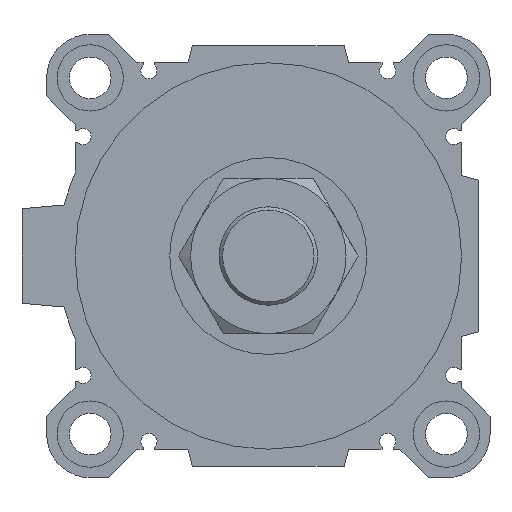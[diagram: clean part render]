
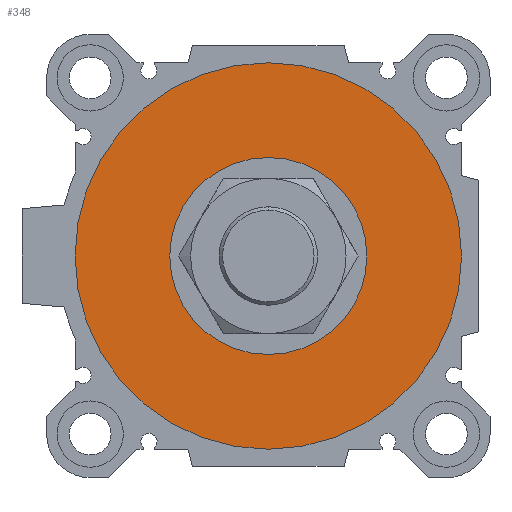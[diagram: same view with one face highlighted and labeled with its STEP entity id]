
A CAD part, left-side view. The second image highlights one B-rep face of the part: STEP entity #348.
In plain terms, the highlighted planar face has unit normal (-1, 0, 0).
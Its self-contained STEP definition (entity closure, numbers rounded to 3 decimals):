
#40 = DIRECTION ( 'NONE',  ( 0., 0., -1. ) ) ;
#83 = DIRECTION ( 'NONE',  ( 0., 1., 0. ) ) ;
#180 = DIRECTION ( 'NONE',  ( 1., 0., 0. ) ) ;
#293 = CARTESIAN_POINT ( 'NONE',  ( 6.5, 0., 0. ) ) ;
#348 = ADVANCED_FACE ( 'NONE', ( #6093, #4822 ), #677, .F. ) ;
#478 = ORIENTED_EDGE ( 'NONE', *, *, #4496, .T. ) ;
#677 = PLANE ( 'NONE',  #4860 ) ;
#722 = EDGE_CURVE ( 'NONE', #7120, #2882, #5487, .T. ) ;
#960 = CARTESIAN_POINT ( 'NONE',  ( 6.5, 0., 51. ) ) ;
#980 = CIRCLE ( 'NONE', #1232, 26. ) ;
#1167 = ORIENTED_EDGE ( 'NONE', *, *, #2919, .T. ) ;
#1232 = AXIS2_PLACEMENT_3D ( 'NONE', #293, #180, #4555 ) ;
#1303 = VERTEX_POINT ( 'NONE', #3326 ) ;
#1313 = EDGE_CURVE ( 'NONE', #2882, #7120, #2979, .T. ) ;
#1726 = CIRCLE ( 'NONE', #6184, 26. ) ;
#1842 = ORIENTED_EDGE ( 'NONE', *, *, #1313, .F. ) ;
#2514 = CARTESIAN_POINT ( 'NONE',  ( 6.5, 0., 0. ) ) ;
#2566 = DIRECTION ( 'NONE',  ( 0., 0., -1. ) ) ;
#2882 = VERTEX_POINT ( 'NONE', #3662 ) ;
#2919 = EDGE_CURVE ( 'NONE', #6964, #1303, #1726, .T. ) ;
#2979 = CIRCLE ( 'NONE', #7439, 51. ) ;
#3100 = DIRECTION ( 'NONE',  ( 1., 0., 0. ) ) ;
#3151 = CARTESIAN_POINT ( 'NONE',  ( 6.5, 0., 0. ) ) ;
#3326 = CARTESIAN_POINT ( 'NONE',  ( 6.5, 0., -26. ) ) ;
#3662 = CARTESIAN_POINT ( 'NONE',  ( 6.5, 0., -51. ) ) ;
#4013 = DIRECTION ( 'NONE',  ( 0., 0., -1. ) ) ;
#4470 = DIRECTION ( 'NONE',  ( 1., 0., 0. ) ) ;
#4496 = EDGE_CURVE ( 'NONE', #1303, #6964, #980, .T. ) ;
#4555 = DIRECTION ( 'NONE',  ( 0., 0., -1. ) ) ;
#4822 = FACE_BOUND ( 'NONE', #6943, .T. ) ;
#4860 = AXIS2_PLACEMENT_3D ( 'NONE', #2514, #3100, #83 ) ;
#5084 = DIRECTION ( 'NONE',  ( 1., 0., 0. ) ) ;
#5487 = CIRCLE ( 'NONE', #7269, 51. ) ;
#6093 = FACE_OUTER_BOUND ( 'NONE', #6665, .T. ) ;
#6184 = AXIS2_PLACEMENT_3D ( 'NONE', #3151, #4470, #2566 ) ;
#6367 = ORIENTED_EDGE ( 'NONE', *, *, #722, .F. ) ;
#6467 = CARTESIAN_POINT ( 'NONE',  ( 6.5, 0., 26. ) ) ;
#6665 = EDGE_LOOP ( 'NONE', ( #6367, #1842 ) ) ;
#6687 = CARTESIAN_POINT ( 'NONE',  ( 6.5, 0., 0. ) ) ;
#6728 = DIRECTION ( 'NONE',  ( 1., 0., 0. ) ) ;
#6943 = EDGE_LOOP ( 'NONE', ( #1167, #478 ) ) ;
#6964 = VERTEX_POINT ( 'NONE', #6467 ) ;
#7046 = CARTESIAN_POINT ( 'NONE',  ( 6.5, 0., 0. ) ) ;
#7120 = VERTEX_POINT ( 'NONE', #960 ) ;
#7269 = AXIS2_PLACEMENT_3D ( 'NONE', #6687, #6728, #40 ) ;
#7439 = AXIS2_PLACEMENT_3D ( 'NONE', #7046, #5084, #4013 ) ;
